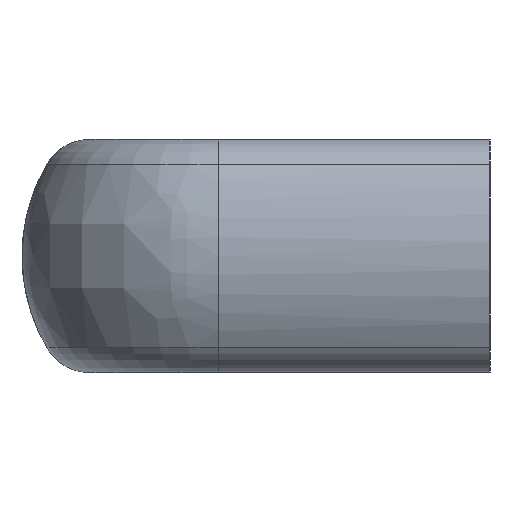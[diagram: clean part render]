
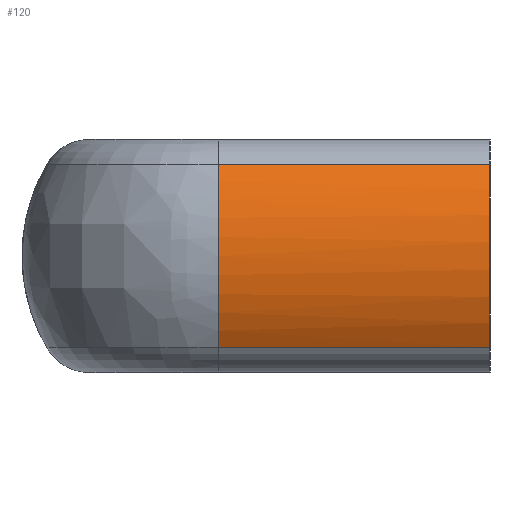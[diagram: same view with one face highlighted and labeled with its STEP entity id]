
A CAD part, left-side view. The second image highlights one B-rep face of the part: STEP entity #120.
In plain terms, the highlighted cylindrical face has radius 19.531 mm (diameter 39.062 mm), a partial arc.
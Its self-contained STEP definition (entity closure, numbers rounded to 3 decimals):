
#120 = ADVANCED_FACE( '', ( #229 ), #230, .T. );
#229 = FACE_OUTER_BOUND( '', #403, .T. );
#230 = CYLINDRICAL_SURFACE( '', #404, 19.531 );
#403 = EDGE_LOOP( '', ( #781, #782, #783, #784 ) );
#404 = AXIS2_PLACEMENT_3D( '', #785, #786, #787 );
#781 = ORIENTED_EDGE( '', *, *, #994, .T. );
#782 = ORIENTED_EDGE( '', *, *, #995, .F. );
#783 = ORIENTED_EDGE( '', *, *, #996, .F. );
#784 = ORIENTED_EDGE( '', *, *, #992, .T. );
#785 = CARTESIAN_POINT( '', ( -44.469, 0., 0. ) );
#786 = DIRECTION( '', ( 0., -1., 0. ) );
#787 = DIRECTION( '', ( 0., 0., 1. ) );
#992 = EDGE_CURVE( '', #1199, #1197, #1200, .T. );
#994 = EDGE_CURVE( '', #1197, #1202, #1203, .T. );
#995 = EDGE_CURVE( '', #1204, #1202, #1205, .T. );
#996 = EDGE_CURVE( '', #1199, #1204, #1206, .T. );
#1197 = VERTEX_POINT( '', #1491 );
#1199 = VERTEX_POINT( '', #1493 );
#1200 = LINE( '', #1494, #1495 );
#1202 = VERTEX_POINT( '', #1497 );
#1203 = CIRCLE( '', #1498, 19.531 );
#1204 = VERTEX_POINT( '', #1499 );
#1205 = LINE( '', #1500, #1501 );
#1206 = CIRCLE( '', #1502, 19.531 );
#1491 = CARTESIAN_POINT( '', ( -61.361, 29., 9.805 ) );
#1493 = CARTESIAN_POINT( '', ( -61.361, 0., 9.805 ) );
#1494 = CARTESIAN_POINT( '', ( -61.361, 0., 9.805 ) );
#1495 = VECTOR( '', #1786, 1000. );
#1497 = CARTESIAN_POINT( '', ( -61.361, 29., -9.805 ) );
#1498 = AXIS2_PLACEMENT_3D( '', #1790, #1791, #1792 );
#1499 = CARTESIAN_POINT( '', ( -61.361, 0., -9.805 ) );
#1500 = CARTESIAN_POINT( '', ( -61.361, 0., -9.805 ) );
#1501 = VECTOR( '', #1793, 1000. );
#1502 = AXIS2_PLACEMENT_3D( '', #1794, #1795, #1796 );
#1786 = DIRECTION( '', ( 0., 1., 0. ) );
#1790 = CARTESIAN_POINT( '', ( -44.469, 29., 0. ) );
#1791 = DIRECTION( '', ( 0., -1., 0. ) );
#1792 = DIRECTION( '', ( 0., 0., 1. ) );
#1793 = DIRECTION( '', ( 0., 1., 0. ) );
#1794 = CARTESIAN_POINT( '', ( -44.469, 0., 0. ) );
#1795 = DIRECTION( '', ( 0., -1., 0. ) );
#1796 = DIRECTION( '', ( 0., 0., 1. ) );
